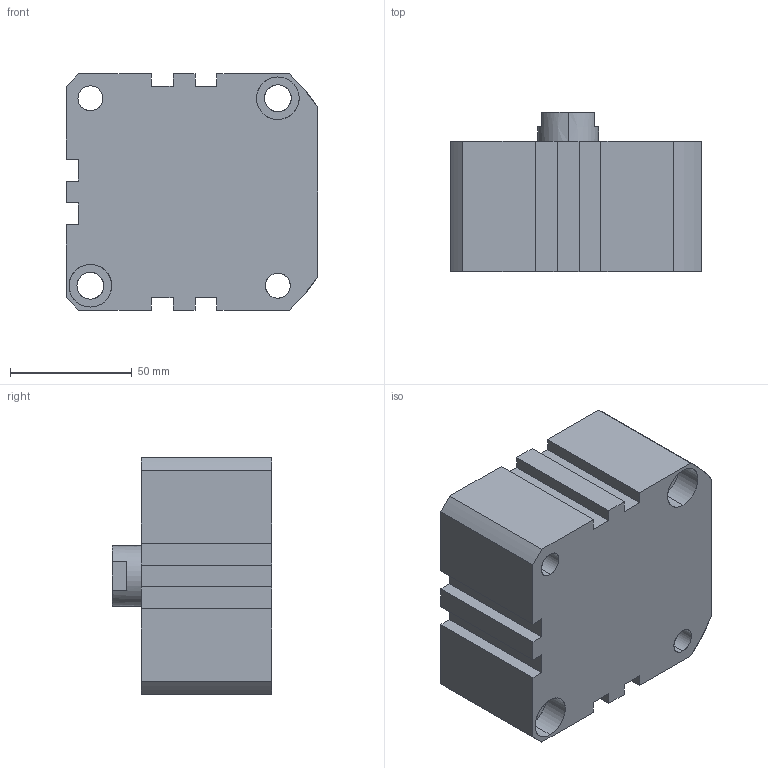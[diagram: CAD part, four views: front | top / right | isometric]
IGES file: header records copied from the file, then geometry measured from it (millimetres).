
Start section: SolidWorks IGES file using analytic representation for surfaces
Global section: file name: C:\Users\Toshiba\Desktop\XC#2-80-10.IGS; native system: SolidWorks 2014; preprocessor: SolidWorks 2014; author: Toshiba; date: 160523.161637; units: millimetre
Bounding box: 103.5 x 65.5 x 97 mm (x, y, z)
Surface area: 54645.4 mm2 (no closed solid volume)
Topology: 0 solids, 0 shells, 99 faces, 1815 edges, 1809 vertices
Faces by surface type: revolution 53, bspline 46
